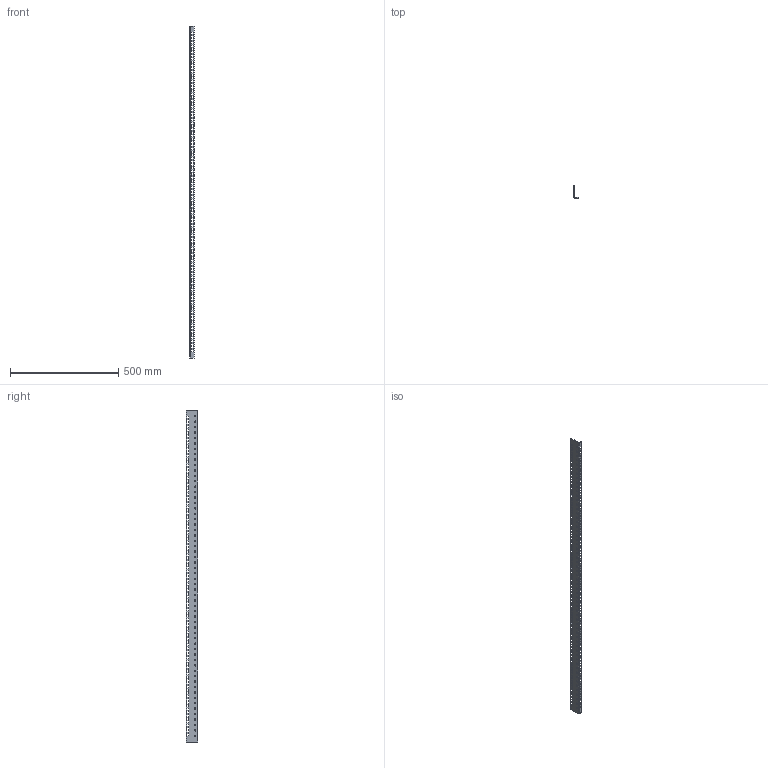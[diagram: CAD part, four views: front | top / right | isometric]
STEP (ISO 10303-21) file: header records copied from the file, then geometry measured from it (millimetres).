
FILE_DESCRIPTION (( 'STEP AP214' ), '1' );
FILE_NAME ('MG 160 IT Ðåéêà âåðòèêàëüíàÿ 19''''.STEP', '2022-08-10T07:15:05', ( '' ), ( '' ), 'SwSTEP 2.0', 'SolidWorks 2018', '' );
FILE_SCHEMA (( 'AUTOMOTIVE_DESIGN' ));
Length unit declared in the file: millimetre
Products named in the file (1): MG 160 IT Ðåéêà âåðòèêàëüíàÿ 19''''
Bounding box: 18.5 x 54.5 x 1533 mm (x, y, z)
Volume: 173552.7 mm3; surface area: 197972 mm2
Topology: 1 solids, 1 shells, 1932 faces, 5716 edges, 3720 vertices
Faces by surface type: cylinder 1054, plane 812, bspline 66
Entity records: 69794 total; most frequent: CARTESIAN_POINT 15923, ORIENTED_EDGE 11432, DIRECTION 11162, EDGE_CURVE 5716, AXIS2_PLACEMENT_3D 3843, VERTEX_POINT 3720, LINE 3476, VECTOR 3476
